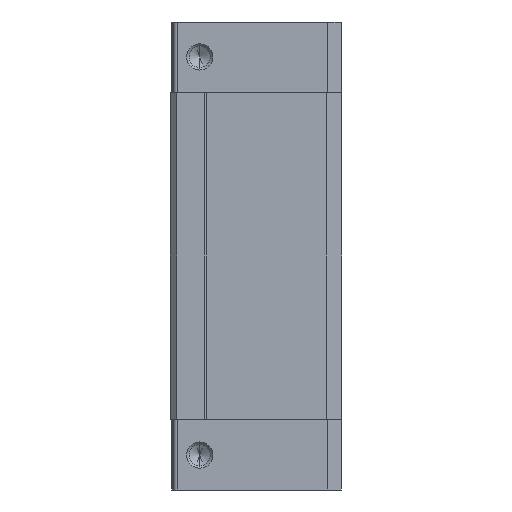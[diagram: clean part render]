
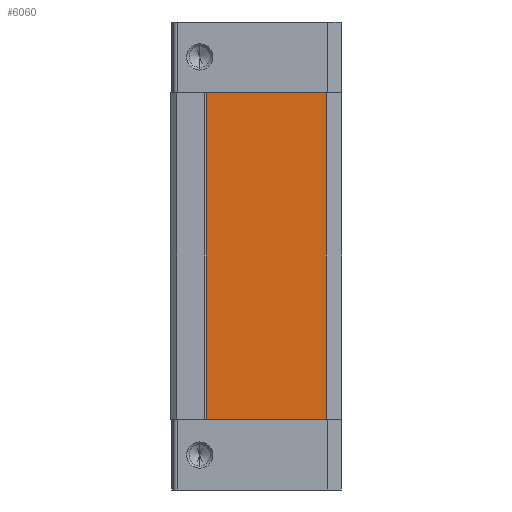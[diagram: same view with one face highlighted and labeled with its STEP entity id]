
A CAD part, left-side view. The second image highlights one B-rep face of the part: STEP entity #6060.
In plain terms, the highlighted planar face has unit normal (-1, 0, 0).
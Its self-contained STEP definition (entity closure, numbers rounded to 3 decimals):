
#3054 = AXIS2_PLACEMENT_3D ( 'NONE', #3058, #3057, #3056 ) ;
#3055 = PLANE ( 'NONE',  #3054 ) ;
#3056 = DIRECTION ( 'NONE',  ( 0., 1., 0. ) ) ;
#3057 = DIRECTION ( 'NONE',  ( 1., 0., 0. ) ) ;
#3058 = CARTESIAN_POINT ( 'NONE',  ( -34.6, -29.9, 38.5 ) ) ;
#3059 = VECTOR ( 'NONE', #3084, 1000. ) ;
#3060 = CARTESIAN_POINT ( 'NONE',  ( -34.6, -29.9, -38.5 ) ) ;
#3061 = LINE ( 'NONE', #3060, #3059 ) ;
#3081 = CARTESIAN_POINT ( 'NONE',  ( -34.6, -29.9, 38.5 ) ) ;
#3082 = LINE ( 'NONE', #3081, #3105 ) ;
#3083 = CARTESIAN_POINT ( 'NONE',  ( -34.6, -29.9, -38.5 ) ) ;
#3084 = DIRECTION ( 'NONE',  ( 0., -1., 0. ) ) ;
#3104 = DIRECTION ( 'NONE',  ( 0., 0., -1. ) ) ;
#3105 = VECTOR ( 'NONE', #3104, 1000. ) ;
#3116 = FACE_OUTER_BOUND ( 'NONE', #6061, .T. ) ;
#3200 = CARTESIAN_POINT ( 'NONE',  ( -34.6, -1.5, -38.5 ) ) ;
#3267 = DIRECTION ( 'NONE',  ( 0., -1., 0. ) ) ;
#3268 = VECTOR ( 'NONE', #3267, 1000. ) ;
#3269 = CARTESIAN_POINT ( 'NONE',  ( -34.6, -29.9, 38.5 ) ) ;
#3270 = LINE ( 'NONE', #3269, #3268 ) ;
#3275 = CARTESIAN_POINT ( 'NONE',  ( -34.6, -29.9, 38.5 ) ) ;
#3370 = DIRECTION ( 'NONE',  ( 0., 0., -1. ) ) ;
#3371 = VECTOR ( 'NONE', #3370, 1000. ) ;
#3375 = CARTESIAN_POINT ( 'NONE',  ( -34.6, -1.5, 38.5 ) ) ;
#3376 = LINE ( 'NONE', #3375, #3371 ) ;
#3377 = CARTESIAN_POINT ( 'NONE',  ( -34.6, -1.5, 38.5 ) ) ;
#6060 = ADVANCED_FACE ( 'NONE', ( #3116 ), #3055, .F. ) ;
#6061 = EDGE_LOOP ( 'NONE', ( #6062, #6065, #6161, #6164 ) ) ;
#6062 = ORIENTED_EDGE ( 'NONE', *, *, #6063, .T. ) ;
#6063 = EDGE_CURVE ( 'NONE', #6140, #6064, #3061, .T. ) ;
#6064 = VERTEX_POINT ( 'NONE', #3083 ) ;
#6065 = ORIENTED_EDGE ( 'NONE', *, *, #6066, .F. ) ;
#6066 = EDGE_CURVE ( 'NONE', #6160, #6064, #3082, .T. ) ;
#6140 = VERTEX_POINT ( 'NONE', #3200 ) ;
#6160 = VERTEX_POINT ( 'NONE', #3275 ) ;
#6161 = ORIENTED_EDGE ( 'NONE', *, *, #6162, .F. ) ;
#6162 = EDGE_CURVE ( 'NONE', #6194, #6160, #3270, .T. ) ;
#6164 = ORIENTED_EDGE ( 'NONE', *, *, #6193, .T. ) ;
#6193 = EDGE_CURVE ( 'NONE', #6194, #6140, #3376, .T. ) ;
#6194 = VERTEX_POINT ( 'NONE', #3377 ) ;
